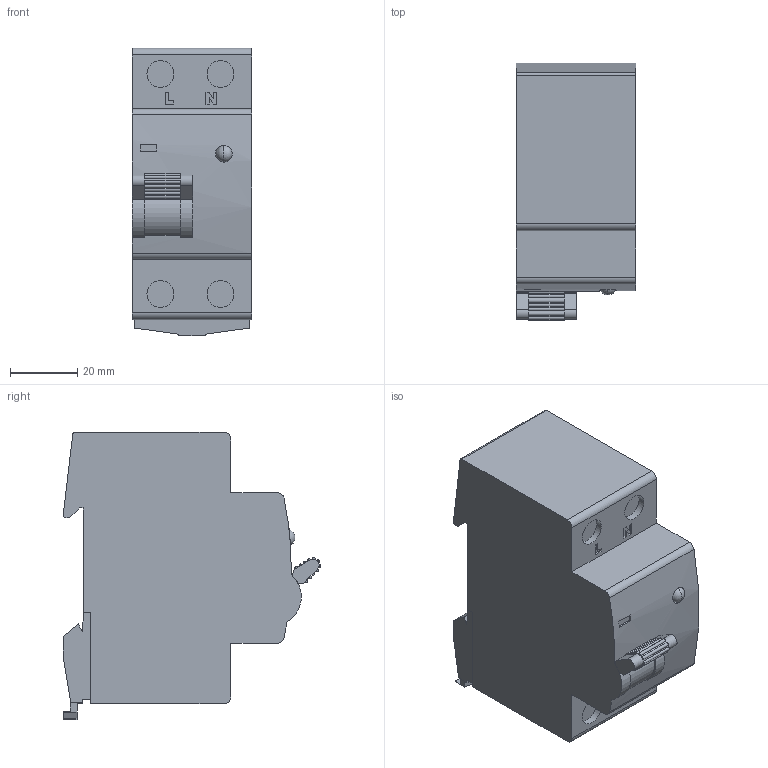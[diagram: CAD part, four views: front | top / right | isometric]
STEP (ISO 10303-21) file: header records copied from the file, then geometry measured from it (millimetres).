
FILE_DESCRIPTION(/* description */ (''),/* implementation_level */ '2;1');
FILE_NAME(/* name */ 'C:\Users\i.voinskiy\Desktop\Модели\STEP\УЗДП.stp',/* time_stamp */ '2026-05-14T11:46:44+03:00',/* author */ ('i.voinskiy'),/* organization */ (''),/* preprocessor_version */ 'ST-DEVELOPER v18.1',/* originating_system */ 'Autodesk Inventor 2022',/* authorisation */ '');
FILE_SCHEMA (('AUTOMOTIVE_DESIGN { 1 0 10303 214 3 1 1 }'));
Length unit declared in the file: millimetre
Products named in the file (7): УЗДП; УЗДП_1; УЗДП_1_1; УЗДП_2; УЗДП_3; УЗДП_4; УЗДП_5
Assembly tree (6 placements, depth 2):
  УЗДП
    УЗДП_1
    УЗДП_1_1
    УЗДП_2
    УЗДП_3
    УЗДП_4
    УЗДП_5
Bounding box: 35.6 x 76.67 x 85.6 mm (x, y, z)
Volume: 162740.3 mm3; surface area: 24055.4 mm2
Topology: 16 solids, 16 shells, 157 faces, 351 edges, 233 vertices
Faces by surface type: plane 116, cylinder 39, sphere 2
Entity records: 4646 total; most frequent: CARTESIAN_POINT 819, DIRECTION 772, ORIENTED_EDGE 698, EDGE_CURVE 349, LINE 262, VECTOR 262, AXIS2_PLACEMENT_3D 255, VERTEX_POINT 233
